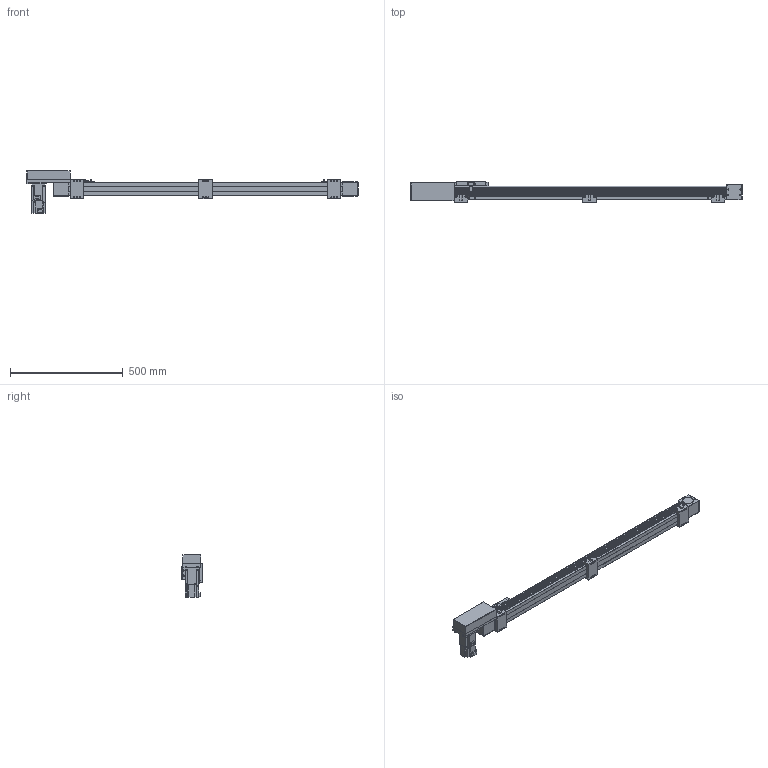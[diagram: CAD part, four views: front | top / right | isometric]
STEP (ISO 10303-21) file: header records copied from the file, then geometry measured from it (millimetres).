
FILE_DESCRIPTION(/* description */ ('STEP AP214'),/* implementation_level */ '2;1');
FILE_NAME(/* name */ 'SK60-P13-S1050-R-T40-C1-N(0)',/* time_stamp */ '2023-04-06T04:27:22+02:00',/* author */ ('License CC BY-ND 4.0'),/* organization */ ('CADENAS'),/* preprocessor_version */ 'ST-DEVELOPER v19.3',/* originating_system */ 'PARTsolutions',/* authorisation */ ' ');
FILE_SCHEMA (('AUTOMOTIVE_DESIGN {1 0 10303 214 3 1 1}'));
Length unit declared in the file: millimetre
Products named in the file (10): SK60-P13-S1050-R-T40-C1-N(0); PSC140-sensor; SK60-S450_seat; SK60-S450-BL-C1_slider; SK60_body3; SK60_body6; SK60-BL_body2; T40-p1; SK60-R_fb; SK60-S1050-R-C1_body
Assembly tree (17 placements, depth 2):
  SK60-P13-S1050-R-T40-C1-N(0)
    PSC140-sensor  x3
    SK60-S450_seat  x3
    SK60-S450-BL-C1_slider
    SK60_body3  x3
    SK60_body6  x2
    SK60-BL_body2  x2
    T40-p1
    SK60-R_fb
    SK60-S1050-R-C1_body
Bounding box: 1470.5 x 90 x 189.7 mm (x, y, z)
Volume: 5830485.9 mm3; surface area: 734690.4 mm2
Topology: 17 solids, 17 shells, 854 faces, 2146 edges, 1413 vertices
Faces by surface type: plane 548, cylinder 278, cone 26, torus 2
Full cylindrical faces by diameter (mm): 2.8 x3, 3.3 x4, 4 x2, 4.5 x30, 4.6 x3, 4.917 x20, 5 x6, 5.478 x4, 5.5 x23, 6.5 x6, 7 x2, 8 x4, 8.5 x4, 9.988 x4, 10 x12, 14 x1, 47 x3, 50 x2
Entity records: 18663 total; most frequent: DIRECTION 3186, CARTESIAN_POINT 3151, ORIENTED_EDGE 2940, EDGE_CURVE 1470, AXIS2_PLACEMENT_3D 1069, LINE 1048, VECTOR 1048, VERTEX_POINT 1034
